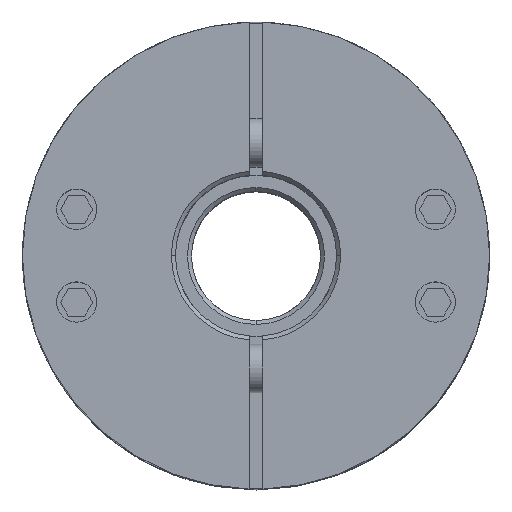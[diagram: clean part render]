
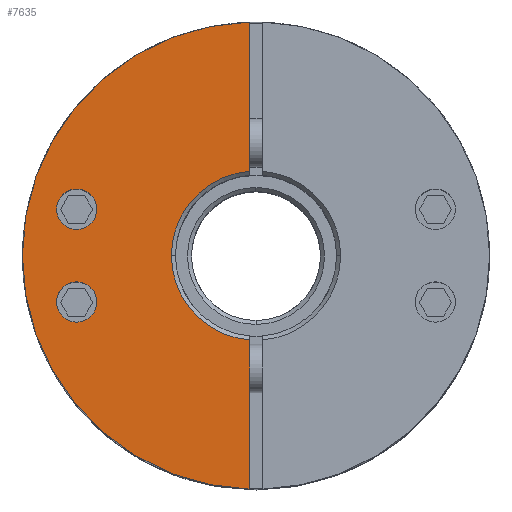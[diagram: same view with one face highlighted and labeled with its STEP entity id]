
A CAD part, top view. The second image highlights one B-rep face of the part: STEP entity #7635.
In plain terms, the highlighted planar face has unit normal (0, 0, 1).
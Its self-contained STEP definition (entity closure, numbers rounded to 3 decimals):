
#4241=CARTESIAN_POINT('',(-19.767,-5.759,27.125));
#4242=VERTEX_POINT('',#4241);
#4251=CARTESIAN_POINT('',(-24.767,-5.759,27.125));
#4252=VERTEX_POINT('',#4251);
#4253=CARTESIAN_POINT('',(-22.267,-5.759,27.125));
#4254=DIRECTION('',(0.0,0.0,-1.0));
#4255=DIRECTION('',(1.0,0.0,0.0));
#4256=AXIS2_PLACEMENT_3D('',#4253,#4254,#4255);
#4257=CIRCLE('',#4256,2.5);
#4258=EDGE_CURVE('',#4252,#4242,#4257,.T.);
#4367=CARTESIAN_POINT('',(-19.767,5.759,27.125));
#4368=VERTEX_POINT('',#4367);
#4377=CARTESIAN_POINT('',(-24.767,5.759,27.125));
#4378=VERTEX_POINT('',#4377);
#4379=CARTESIAN_POINT('',(-22.267,5.759,27.125));
#4380=DIRECTION('',(0.0,0.0,-1.0));
#4381=DIRECTION('',(1.0,0.0,0.0));
#4382=AXIS2_PLACEMENT_3D('',#4379,#4380,#4381);
#4383=CIRCLE('',#4382,2.5);
#4384=EDGE_CURVE('',#4378,#4368,#4383,.T.);
#4596=CARTESIAN_POINT('',(-29.0,0.,27.125));
#4597=VERTEX_POINT('',#4596);
#4604=CARTESIAN_POINT('',(-0.75,28.99,27.125));
#4605=VERTEX_POINT('',#4604);
#4606=CARTESIAN_POINT('',(0.0,0.0,27.125));
#4607=DIRECTION('',(0.0,0.0,-1.0));
#4608=DIRECTION('',(1.0,0.0,0.0));
#4609=AXIS2_PLACEMENT_3D('',#4606,#4607,#4608);
#4610=CIRCLE('',#4609,29.0);
#4611=EDGE_CURVE('',#4597,#4605,#4610,.T.);
#4962=CARTESIAN_POINT('',(-10.5,0.,27.125));
#4963=VERTEX_POINT('',#4962);
#4979=CARTESIAN_POINT('',(-0.75,10.473,27.125));
#4980=VERTEX_POINT('',#4979);
#4994=CARTESIAN_POINT('',(0.0,0.0,27.125));
#4995=DIRECTION('',(0.0,0.0,1.0));
#4996=DIRECTION('',(-1.0,0.0,0.0));
#4997=AXIS2_PLACEMENT_3D('',#4994,#4995,#4996);
#4998=CIRCLE('',#4997,10.5);
#4999=EDGE_CURVE('',#4980,#4963,#4998,.T.);
#7388=CARTESIAN_POINT('',(-0.75,-10.473,27.125));
#7389=VERTEX_POINT('',#7388);
#7390=CARTESIAN_POINT('',(0.0,0.0,27.125));
#7391=DIRECTION('',(0.0,0.0,1.0));
#7392=DIRECTION('',(-1.0,0.0,0.0));
#7393=AXIS2_PLACEMENT_3D('',#7390,#7391,#7392);
#7394=CIRCLE('',#7393,10.5);
#7395=EDGE_CURVE('',#4963,#7389,#7394,.T.);
#7428=CARTESIAN_POINT('',(-0.75,10.473,27.125));
#7429=DIRECTION('',(0.0,1.0,0.0));
#7430=VECTOR('',#7429,18.517);
#7431=LINE('',#7428,#7430);
#7432=EDGE_CURVE('',#4980,#4605,#7431,.T.);
#7542=CARTESIAN_POINT('',(-0.75,-28.99,27.125));
#7543=VERTEX_POINT('',#7542);
#7544=CARTESIAN_POINT('',(-0.75,-28.99,27.125));
#7545=DIRECTION('',(0.0,1.0,0.0));
#7546=VECTOR('',#7545,18.517);
#7547=LINE('',#7544,#7546);
#7548=EDGE_CURVE('',#7543,#7389,#7547,.T.);
#7596=CARTESIAN_POINT('',(2.636,0.,27.125));
#7597=DIRECTION('',(0.0,0.0,1.0));
#7598=DIRECTION('',(1.0,0.0,0.0));
#7599=AXIS2_PLACEMENT_3D('',#7596,#7597,#7598);
#7600=PLANE('',#7599);
#7601=ORIENTED_EDGE('',*,*,#4999,.F.);
#7602=ORIENTED_EDGE('',*,*,#7432,.T.);
#7603=ORIENTED_EDGE('',*,*,#4611,.F.);
#7604=CARTESIAN_POINT('',(0.0,0.0,27.125));
#7605=DIRECTION('',(0.0,0.0,-1.0));
#7606=DIRECTION('',(1.0,0.0,0.0));
#7607=AXIS2_PLACEMENT_3D('',#7604,#7605,#7606);
#7608=CIRCLE('',#7607,29.0);
#7609=EDGE_CURVE('',#7543,#4597,#7608,.T.);
#7610=ORIENTED_EDGE('',*,*,#7609,.F.);
#7611=ORIENTED_EDGE('',*,*,#7548,.T.);
#7612=ORIENTED_EDGE('',*,*,#7395,.F.);
#7613=EDGE_LOOP('',(#7601,#7602,#7603,#7610,#7611,#7612));
#7614=FACE_OUTER_BOUND('',#7613,.T.);
#7615=CARTESIAN_POINT('',(-22.267,-5.759,27.125));
#7616=DIRECTION('',(0.0,0.0,-1.0));
#7617=DIRECTION('',(1.0,0.0,0.0));
#7618=AXIS2_PLACEMENT_3D('',#7615,#7616,#7617);
#7619=CIRCLE('',#7618,2.5);
#7620=EDGE_CURVE('',#4242,#4252,#7619,.T.);
#7621=ORIENTED_EDGE('',*,*,#7620,.T.);
#7622=ORIENTED_EDGE('',*,*,#4258,.T.);
#7623=EDGE_LOOP('',(#7621,#7622));
#7624=FACE_BOUND('',#7623,.T.);
#7625=CARTESIAN_POINT('',(-22.267,5.759,27.125));
#7626=DIRECTION('',(0.0,0.0,-1.0));
#7627=DIRECTION('',(1.0,0.0,0.0));
#7628=AXIS2_PLACEMENT_3D('',#7625,#7626,#7627);
#7629=CIRCLE('',#7628,2.5);
#7630=EDGE_CURVE('',#4368,#4378,#7629,.T.);
#7631=ORIENTED_EDGE('',*,*,#7630,.T.);
#7632=ORIENTED_EDGE('',*,*,#4384,.T.);
#7633=EDGE_LOOP('',(#7631,#7632));
#7634=FACE_BOUND('',#7633,.T.);
#7635=ADVANCED_FACE('',(#7614,#7624,#7634),#7600,.T.);
